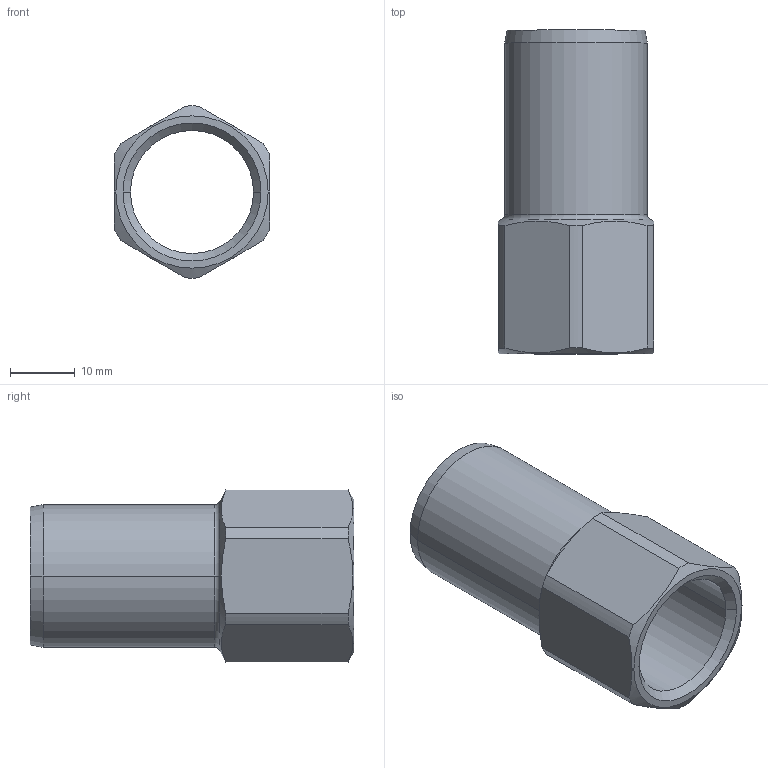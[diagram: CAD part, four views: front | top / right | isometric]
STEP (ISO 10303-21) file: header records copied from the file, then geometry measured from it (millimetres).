
FILE_DESCRIPTION(('OneSpaceDesigner STEP Export'),'2;1');
FILE_NAME('C1433 22xRp1-2.stp','2010-06-15T16:43:38',(''),(''),'OneSpace Designer STEP processor for AP214 (Solid Model)','OneSpace Modeling 15.00A 14-Mar-2007 (C) CoCreate Software GmbH','');
FILE_SCHEMA(('AUTOMOTIVE_DESIGN { 1 0 10303 214 1 1 1 1 }'));
Length unit declared in the file: millimetre
Products named in the file (2): C1433_22xRp1-2
Assembly tree (1 placements, depth 2):
  C1433_22xRp1-2
    C1433_22xRp1-2
Bounding box: 24 x 50 x 26.59 mm (x, y, z)
Volume: 7117.8 mm3; surface area: 6968.6 mm2
Topology: 1 solids, 1 shells, 28 faces, 70 edges, 44 vertices
Faces by surface type: cylinder 10, cone 8, plane 8, torus 2
Entity records: 1521 total; most frequent: CARTESIAN_POINT 912, ORIENTED_EDGE 140, DIRECTION 84, EDGE_CURVE 70, VERTEX_POINT 44, AXIS2_PLACEMENT_3D 30, EDGE_LOOP 30, FACE_OUTER_BOUND 28
